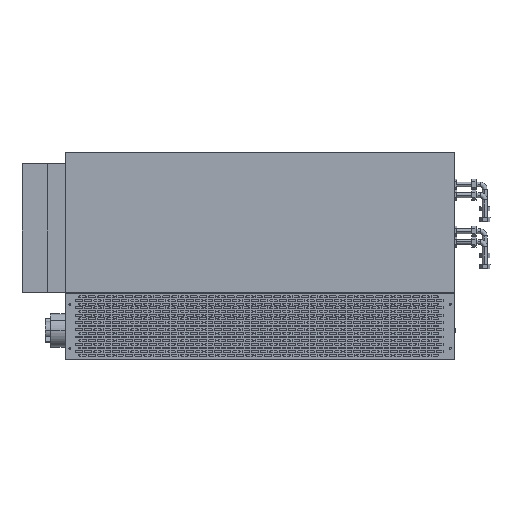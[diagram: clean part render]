
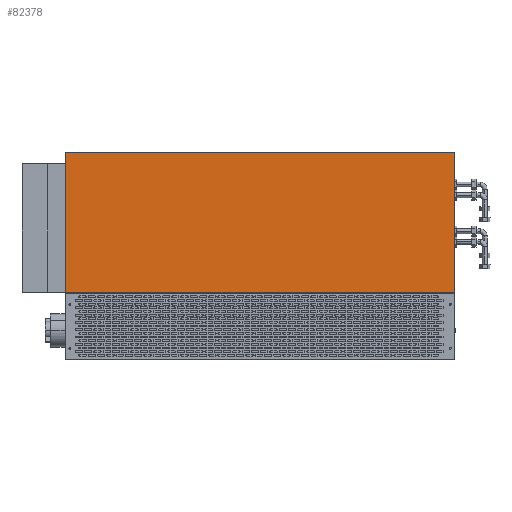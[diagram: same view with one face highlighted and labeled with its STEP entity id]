
A CAD part, top view. The second image highlights one B-rep face of the part: STEP entity #82378.
In plain terms, the highlighted planar face has unit normal (0, 0, 1).
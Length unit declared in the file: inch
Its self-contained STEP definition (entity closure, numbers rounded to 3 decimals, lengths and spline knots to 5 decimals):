
#11894 = PLANE ( 'NONE',  #109743 ) ;
#13656 = DIRECTION ( 'NONE',  ( -1., 0., 0. ) ) ;
#21057 = DIRECTION ( 'NONE',  ( 1., 0., 0. ) ) ;
#25548 = CARTESIAN_POINT ( 'NONE',  ( -20.8125, 22.125, 2.5625 ) ) ;
#26230 = CARTESIAN_POINT ( 'NONE',  ( -20.8125, 7.164, 2.5625 ) ) ;
#26724 = VECTOR ( 'NONE', #95789, 39.37008 ) ;
#28602 = DIRECTION ( 'NONE',  ( 0., -1., 0. ) ) ;
#32343 = CARTESIAN_POINT ( 'NONE',  ( 20.8125, 22.125, 2.5625 ) ) ;
#41638 = CARTESIAN_POINT ( 'NONE',  ( -20.8125, 22.125, 2.5625 ) ) ;
#44582 = ORIENTED_EDGE ( 'NONE', *, *, #111584, .F. ) ;
#47832 = VERTEX_POINT ( 'NONE', #85986 ) ;
#56543 = VERTEX_POINT ( 'NONE', #32343 ) ;
#62594 = CARTESIAN_POINT ( 'NONE',  ( -20.8125, 22.125, 2.5625 ) ) ;
#63657 = VECTOR ( 'NONE', #28602, 39.37008 ) ;
#66479 = EDGE_LOOP ( 'NONE', ( #169996, #44582, #134018, #87684 ) ) ;
#70398 = CARTESIAN_POINT ( 'NONE',  ( -20.8125, 22.125, 2.5625 ) ) ;
#70822 = CARTESIAN_POINT ( 'NONE',  ( 20.8125, 7.164, 2.5625 ) ) ;
#71283 = LINE ( 'NONE', #70398, #26724 ) ;
#80938 = VECTOR ( 'NONE', #134705, 39.37008 ) ;
#82378 = ADVANCED_FACE ( 'NONE', ( #123026 ), #11894, .F. ) ;
#83125 = LINE ( 'NONE', #26230, #80938 ) ;
#85986 = CARTESIAN_POINT ( 'NONE',  ( -20.8125, 7.164, 2.5625 ) ) ;
#87684 = ORIENTED_EDGE ( 'NONE', *, *, #109783, .F. ) ;
#95789 = DIRECTION ( 'NONE',  ( 0., -1., 0. ) ) ;
#109671 = VERTEX_POINT ( 'NONE', #70822 ) ;
#109743 = AXIS2_PLACEMENT_3D ( 'NONE', #41638, #151057, #13656 ) ;
#109783 = EDGE_CURVE ( 'NONE', #111102, #56543, #130425, .T. ) ;
#110871 = LINE ( 'NONE', #137995, #63657 ) ;
#111102 = VERTEX_POINT ( 'NONE', #25548 ) ;
#111584 = EDGE_CURVE ( 'NONE', #109671, #47832, #83125, .T. ) ;
#115422 = EDGE_CURVE ( 'NONE', #111102, #47832, #71283, .T. ) ;
#123026 = FACE_OUTER_BOUND ( 'NONE', #66479, .T. ) ;
#129308 = VECTOR ( 'NONE', #21057, 39.37008 ) ;
#130425 = LINE ( 'NONE', #62594, #129308 ) ;
#134018 = ORIENTED_EDGE ( 'NONE', *, *, #134673, .F. ) ;
#134673 = EDGE_CURVE ( 'NONE', #56543, #109671, #110871, .T. ) ;
#134705 = DIRECTION ( 'NONE',  ( -1., 0., 0. ) ) ;
#137995 = CARTESIAN_POINT ( 'NONE',  ( 20.8125, 22.125, 2.5625 ) ) ;
#151057 = DIRECTION ( 'NONE',  ( 0., 0., -1. ) ) ;
#169996 = ORIENTED_EDGE ( 'NONE', *, *, #115422, .T. ) ;
